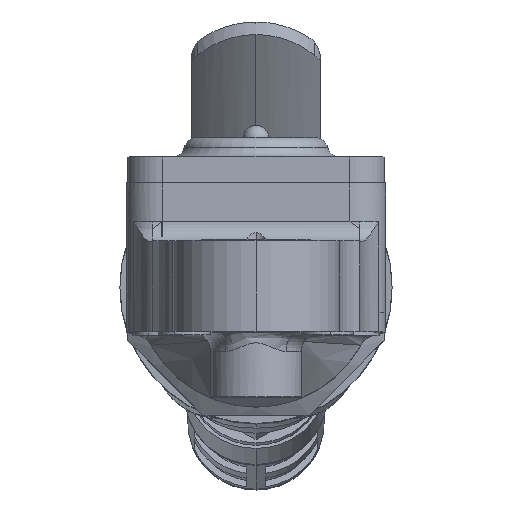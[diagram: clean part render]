
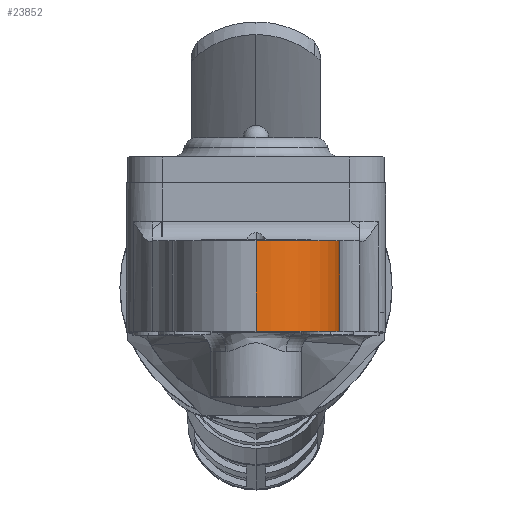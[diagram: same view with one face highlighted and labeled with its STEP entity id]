
A CAD part, top view. The second image highlights one B-rep face of the part: STEP entity #23852.
In plain terms, the highlighted cylindrical face has radius 12.9 mm (diameter 25.8 mm), a partial arc.
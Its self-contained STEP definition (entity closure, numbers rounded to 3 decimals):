
#335 = AXIS2_PLACEMENT_3D ( 'NONE', #9742, #3361, #18349 ) ;
#678 = ORIENTED_EDGE ( 'NONE', *, *, #25244, .F. ) ;
#2369 = AXIS2_PLACEMENT_3D ( 'NONE', #8327, #23289, #10482 ) ;
#2625 = EDGE_CURVE ( 'NONE', #7822, #16366, #27291, .T. ) ;
#2644 = ORIENTED_EDGE ( 'NONE', *, *, #2625, .F. ) ;
#3361 = DIRECTION ( 'NONE',  ( 0., 1., 0. ) ) ;
#5090 = CARTESIAN_POINT ( 'NONE',  ( 0., -7., 0. ) ) ;
#5363 = CYLINDRICAL_SURFACE ( 'NONE', #335, 12.9 ) ;
#5805 = DIRECTION ( 'NONE',  ( 0., -1., 0. ) ) ;
#6170 = DIRECTION ( 'NONE',  ( 0., 1., 0. ) ) ;
#7255 = DIRECTION ( 'NONE',  ( 0., 1., 0. ) ) ;
#7822 = VERTEX_POINT ( 'NONE', #27115 ) ;
#8327 = CARTESIAN_POINT ( 'NONE',  ( 0., 7., -12.9 ) ) ;
#8388 = EDGE_LOOP ( 'NONE', ( #678, #16820, #2644, #19483 ) ) ;
#8554 = LINE ( 'NONE', #17896, #24936 ) ;
#9315 = VERTEX_POINT ( 'NONE', #5090 ) ;
#9742 = CARTESIAN_POINT ( 'NONE',  ( 0., -7., -12.9 ) ) ;
#10482 = DIRECTION ( 'NONE',  ( 0., 0., -1. ) ) ;
#11416 = LINE ( 'NONE', #23193, #16424 ) ;
#13793 = AXIS2_PLACEMENT_3D ( 'NONE', #18646, #5805, #20762 ) ;
#16366 = VERTEX_POINT ( 'NONE', #20803 ) ;
#16424 = VECTOR ( 'NONE', #6170, 1000. ) ;
#16730 = FACE_OUTER_BOUND ( 'NONE', #8388, .T. ) ;
#16820 = ORIENTED_EDGE ( 'NONE', *, *, #18191, .T. ) ;
#17896 = CARTESIAN_POINT ( 'NONE',  ( 0., -7., 0. ) ) ;
#18191 = EDGE_CURVE ( 'NONE', #9315, #16366, #8554, .T. ) ;
#18349 = DIRECTION ( 'NONE',  ( 0., 0., 1. ) ) ;
#18646 = CARTESIAN_POINT ( 'NONE',  ( 0., -7., -12.9 ) ) ;
#19483 = ORIENTED_EDGE ( 'NONE', *, *, #20931, .F. ) ;
#19992 = CIRCLE ( 'NONE', #13793, 12.9 ) ;
#20762 = DIRECTION ( 'NONE',  ( 0., 0., -1. ) ) ;
#20803 = CARTESIAN_POINT ( 'NONE',  ( 0., 7., 0. ) ) ;
#20931 = EDGE_CURVE ( 'NONE', #25385, #7822, #11416, .T. ) ;
#23193 = CARTESIAN_POINT ( 'NONE',  ( -12.9, -7., -12.9 ) ) ;
#23289 = DIRECTION ( 'NONE',  ( 0., 1., 0. ) ) ;
#23852 = ADVANCED_FACE ( 'NONE', ( #16730 ), #5363, .T. ) ;
#24936 = VECTOR ( 'NONE', #7255, 1000. ) ;
#25244 = EDGE_CURVE ( 'NONE', #9315, #25385, #19992, .T. ) ;
#25385 = VERTEX_POINT ( 'NONE', #26082 ) ;
#26082 = CARTESIAN_POINT ( 'NONE',  ( -12.9, -7., -12.9 ) ) ;
#27115 = CARTESIAN_POINT ( 'NONE',  ( -12.9, 7., -12.9 ) ) ;
#27291 = CIRCLE ( 'NONE', #2369, 12.9 ) ;
